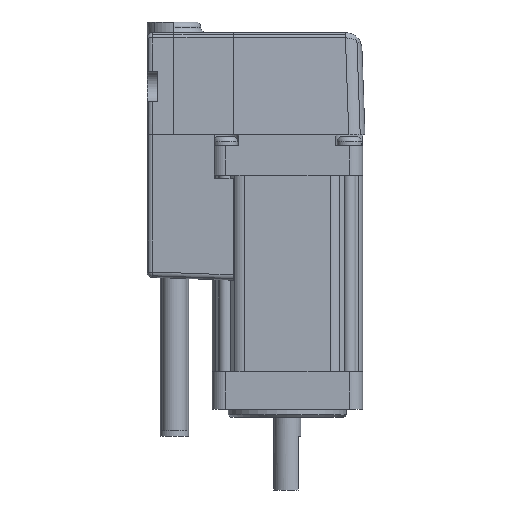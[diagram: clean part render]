
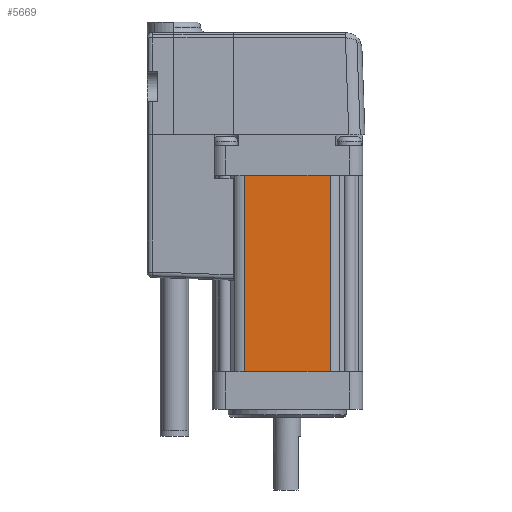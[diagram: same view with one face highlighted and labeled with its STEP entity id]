
A CAD part, front view. The second image highlights one B-rep face of the part: STEP entity #5669.
In plain terms, the highlighted planar face has unit normal (0, -1, 0).
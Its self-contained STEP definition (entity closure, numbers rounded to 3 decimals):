
#1736 = PLANE('',#1737);
#1737 = AXIS2_PLACEMENT_3D('',#1738,#1739,#1740);
#1738 = CARTESIAN_POINT('',(14.,-14.,0.));
#1739 = DIRECTION('',(0.,-1.,0.));
#1740 = DIRECTION('',(-1.,0.,0.));
#2056 = VERTEX_POINT('',#2057);
#2057 = CARTESIAN_POINT('',(7.964,-14.,7.));
#2093 = CYLINDRICAL_SURFACE('',#2094,2.5);
#2094 = AXIS2_PLACEMENT_3D('',#2095,#2096,#2097);
#2095 = CARTESIAN_POINT('',(7.964,-11.5,7.));
#2096 = DIRECTION('',(0.,0.,1.));
#2097 = DIRECTION('',(0.707,-0.707,0.));
#2957 = PLANE('',#2958);
#2958 = AXIS2_PLACEMENT_3D('',#2959,#2960,#2961);
#2959 = CARTESIAN_POINT('',(14.,-14.,43.5));
#2960 = DIRECTION('',(0.,-1.,0.));
#2961 = DIRECTION('',(-1.,0.,0.));
#2970 = VERTEX_POINT('',#2971);
#2971 = CARTESIAN_POINT('',(7.964,-14.,43.5));
#3893 = EDGE_CURVE('',#2056,#3894,#3896,.T.);
#3894 = VERTEX_POINT('',#3895);
#3895 = CARTESIAN_POINT('',(-7.964,-14.,7.));
#3896 = SURFACE_CURVE('',#3897,(#3901,#3908),.PCURVE_S1.);
#3897 = LINE('',#3898,#3899);
#3898 = CARTESIAN_POINT('',(9.,-14.,7.));
#3899 = VECTOR('',#3900,1.);
#3900 = DIRECTION('',(-1.,0.,0.));
#3901 = PCURVE('',#1736,#3902);
#3902 = DEFINITIONAL_REPRESENTATION('',(#3903),#3907);
#3903 = LINE('',#3904,#3905);
#3904 = CARTESIAN_POINT('',(5.,-7.));
#3905 = VECTOR('',#3906,1.);
#3906 = DIRECTION('',(1.,0.));
#3907 = ( GEOMETRIC_REPRESENTATION_CONTEXT(2) 
PARAMETRIC_REPRESENTATION_CONTEXT() REPRESENTATION_CONTEXT('2D SPACE',''
  ) );
#3908 = PCURVE('',#3909,#3914);
#3909 = PLANE('',#3910);
#3910 = AXIS2_PLACEMENT_3D('',#3911,#3912,#3913);
#3911 = CARTESIAN_POINT('',(9.,-14.,7.));
#3912 = DIRECTION('',(0.,-1.,0.));
#3913 = DIRECTION('',(-1.,0.,0.));
#3914 = DEFINITIONAL_REPRESENTATION('',(#3915),#3919);
#3915 = LINE('',#3916,#3917);
#3916 = CARTESIAN_POINT('',(0.,-0.));
#3917 = VECTOR('',#3918,1.);
#3918 = DIRECTION('',(1.,0.));
#3919 = ( GEOMETRIC_REPRESENTATION_CONTEXT(2) 
PARAMETRIC_REPRESENTATION_CONTEXT() REPRESENTATION_CONTEXT('2D SPACE',''
  ) );
#4241 = EDGE_CURVE('',#2056,#2970,#4242,.T.);
#4242 = SURFACE_CURVE('',#4243,(#4247,#4254),.PCURVE_S1.);
#4243 = LINE('',#4244,#4245);
#4244 = CARTESIAN_POINT('',(7.964,-14.,7.));
#4245 = VECTOR('',#4246,1.);
#4246 = DIRECTION('',(0.,0.,1.));
#4247 = PCURVE('',#2093,#4248);
#4248 = DEFINITIONAL_REPRESENTATION('',(#4249),#4253);
#4249 = LINE('',#4250,#4251);
#4250 = CARTESIAN_POINT('',(-0.785,0.));
#4251 = VECTOR('',#4252,1.);
#4252 = DIRECTION('',(-0.,1.));
#4253 = ( GEOMETRIC_REPRESENTATION_CONTEXT(2) 
PARAMETRIC_REPRESENTATION_CONTEXT() REPRESENTATION_CONTEXT('2D SPACE',''
  ) );
#4254 = PCURVE('',#3909,#4255);
#4255 = DEFINITIONAL_REPRESENTATION('',(#4256),#4260);
#4256 = LINE('',#4257,#4258);
#4257 = CARTESIAN_POINT('',(1.036,0.));
#4258 = VECTOR('',#4259,1.);
#4259 = DIRECTION('',(0.,-1.));
#4260 = ( GEOMETRIC_REPRESENTATION_CONTEXT(2) 
PARAMETRIC_REPRESENTATION_CONTEXT() REPRESENTATION_CONTEXT('2D SPACE',''
  ) );
#4992 = VERTEX_POINT('',#4993);
#4993 = CARTESIAN_POINT('',(-7.964,-14.,43.5));
#5014 = EDGE_CURVE('',#2970,#4992,#5015,.T.);
#5015 = SURFACE_CURVE('',#5016,(#5020,#5027),.PCURVE_S1.);
#5016 = LINE('',#5017,#5018);
#5017 = CARTESIAN_POINT('',(9.,-14.,43.5));
#5018 = VECTOR('',#5019,1.);
#5019 = DIRECTION('',(-1.,0.,0.));
#5020 = PCURVE('',#2957,#5021);
#5021 = DEFINITIONAL_REPRESENTATION('',(#5022),#5026);
#5022 = LINE('',#5023,#5024);
#5023 = CARTESIAN_POINT('',(5.,0.));
#5024 = VECTOR('',#5025,1.);
#5025 = DIRECTION('',(1.,0.));
#5026 = ( GEOMETRIC_REPRESENTATION_CONTEXT(2) 
PARAMETRIC_REPRESENTATION_CONTEXT() REPRESENTATION_CONTEXT('2D SPACE',''
  ) );
#5027 = PCURVE('',#3909,#5028);
#5028 = DEFINITIONAL_REPRESENTATION('',(#5029),#5033);
#5029 = LINE('',#5030,#5031);
#5030 = CARTESIAN_POINT('',(0.,-36.5));
#5031 = VECTOR('',#5032,1.);
#5032 = DIRECTION('',(1.,0.));
#5033 = ( GEOMETRIC_REPRESENTATION_CONTEXT(2) 
PARAMETRIC_REPRESENTATION_CONTEXT() REPRESENTATION_CONTEXT('2D SPACE',''
  ) );
#5596 = CYLINDRICAL_SURFACE('',#5597,2.5);
#5597 = AXIS2_PLACEMENT_3D('',#5598,#5599,#5600);
#5598 = CARTESIAN_POINT('',(-7.964,-11.5,7.));
#5599 = DIRECTION('',(0.,0.,1.));
#5600 = DIRECTION('',(0.,-1.,0.));
#5669 = ADVANCED_FACE('',(#5670),#3909,.T.);
#5670 = FACE_BOUND('',#5671,.T.);
#5671 = EDGE_LOOP('',(#5672,#5693,#5694,#5695));
#5672 = ORIENTED_EDGE('',*,*,#5673,.F.);
#5673 = EDGE_CURVE('',#3894,#4992,#5674,.T.);
#5674 = SURFACE_CURVE('',#5675,(#5679,#5686),.PCURVE_S1.);
#5675 = LINE('',#5676,#5677);
#5676 = CARTESIAN_POINT('',(-7.964,-14.,7.));
#5677 = VECTOR('',#5678,1.);
#5678 = DIRECTION('',(0.,0.,1.));
#5679 = PCURVE('',#3909,#5680);
#5680 = DEFINITIONAL_REPRESENTATION('',(#5681),#5685);
#5681 = LINE('',#5682,#5683);
#5682 = CARTESIAN_POINT('',(16.964,0.));
#5683 = VECTOR('',#5684,1.);
#5684 = DIRECTION('',(0.,-1.));
#5685 = ( GEOMETRIC_REPRESENTATION_CONTEXT(2) 
PARAMETRIC_REPRESENTATION_CONTEXT() REPRESENTATION_CONTEXT('2D SPACE',''
  ) );
#5686 = PCURVE('',#5596,#5687);
#5687 = DEFINITIONAL_REPRESENTATION('',(#5688),#5692);
#5688 = LINE('',#5689,#5690);
#5689 = CARTESIAN_POINT('',(-0.,0.));
#5690 = VECTOR('',#5691,1.);
#5691 = DIRECTION('',(-0.,1.));
#5692 = ( GEOMETRIC_REPRESENTATION_CONTEXT(2) 
PARAMETRIC_REPRESENTATION_CONTEXT() REPRESENTATION_CONTEXT('2D SPACE',''
  ) );
#5693 = ORIENTED_EDGE('',*,*,#3893,.F.);
#5694 = ORIENTED_EDGE('',*,*,#4241,.T.);
#5695 = ORIENTED_EDGE('',*,*,#5014,.T.);
